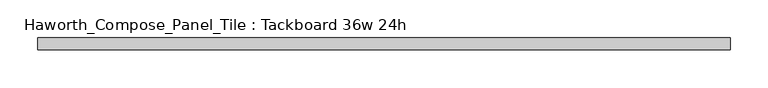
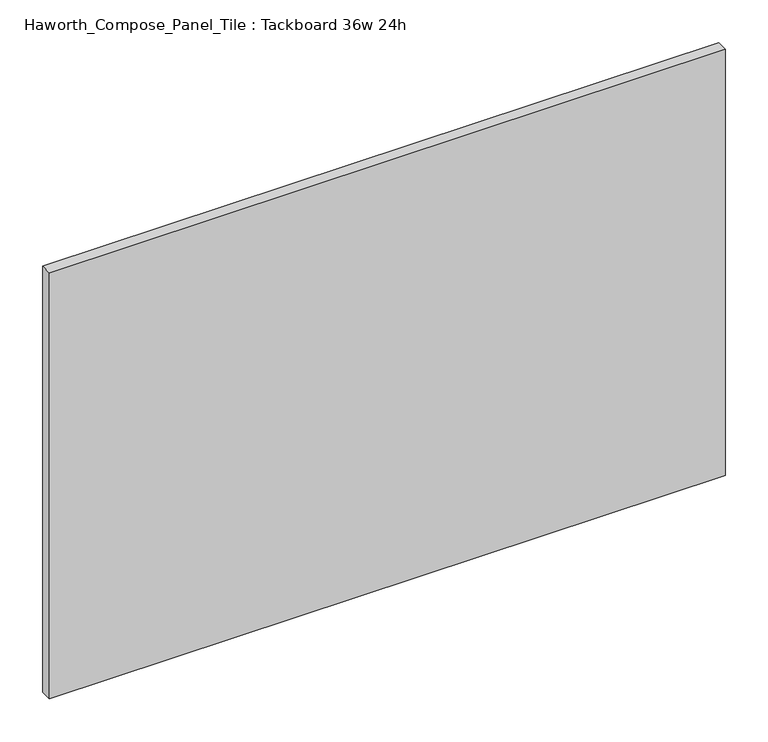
"""IFC4 building model written with IfcOpenShell, lengths in millimetres: furniture geometry, Haworth_Compose_Panel_Tile : Tackboard 36w 24h."""

from ifc_helpers import new_model, si_unit, frame, origin, place, context, project, spatial, polyline, outline, extrude, source, transform, mapped, element, save


def haworth_compose_panel_tile_tackboard_36w_24h_8c5cbb0c(model_context):
    return source(origin(), model_context, "Body", "SweptSolid", [
        extrude(outline(polyline([(459.6402902, -28.8968594), (-454.7597098, -28.8968594), (-454.7597098, -13.0218594), (459.6402902, -13.0218594), (459.6402902, -28.8968594)])), frame((0.0, 0.0, 1066.8), z_axis=(0.0, 0.0, 1.0), x_axis=(1.0, 0.0, 0.0)), (0.0, 0.0, 1.0), 609.6),
    ])


if __name__ == "__main__":
    model = new_model("IFC4")
    model_context = context("Model", 3, world=origin())
    ifc_project = project(units=[si_unit("LENGTHUNIT", "METRE", prefix="MILLI")], contexts=[model_context])
    site = spatial("IfcSite", under=ifc_project)
    building = spatial("IfcBuilding", under=site)
    placement = place(None, origin())
    haworth_compose_panel_tile_tackboard_36w_24h_shape = haworth_compose_panel_tile_tackboard_36w_24h_8c5cbb0c(model_context)
    element("IfcFurniture", 1, ObjectType="Haworth_Compose_Panel_Tile : Tackboard 36w 24h", at=placement, inside=building, context=model_context, shape_type="MappedRepresentation", body=[
        mapped(haworth_compose_panel_tile_tackboard_36w_24h_shape, transform((0.0, 0.0, 0.0), x_axis=(1.0, 0.0, 0.0), y_axis=(0.0, 1.0, 0.0), z_axis=(0.0, 0.0, 1.0))),
    ])
    save(model, "model.ifc")
